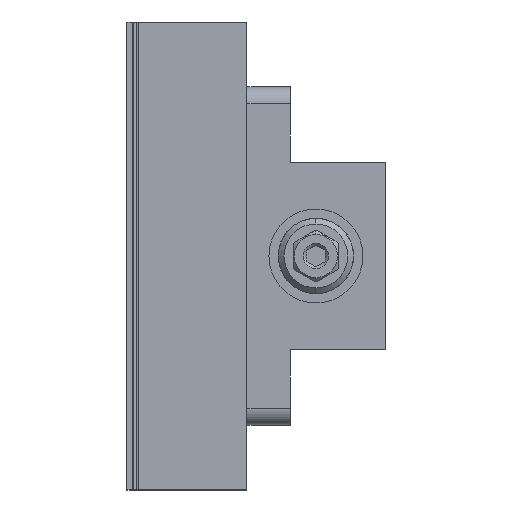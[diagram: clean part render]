
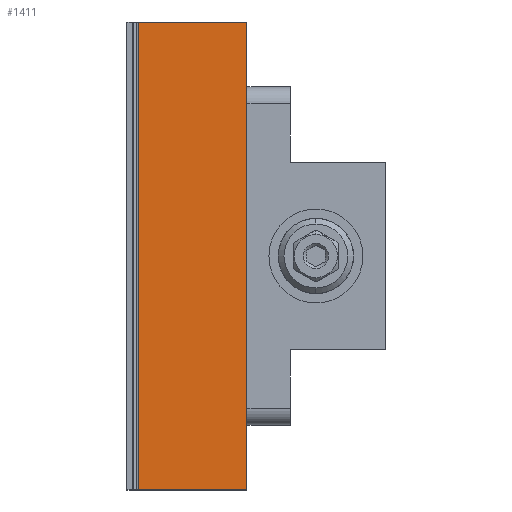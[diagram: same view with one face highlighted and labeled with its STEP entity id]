
A CAD part, left-side view. The second image highlights one B-rep face of the part: STEP entity #1411.
In plain terms, the highlighted planar face has unit normal (-1, 0, 0).
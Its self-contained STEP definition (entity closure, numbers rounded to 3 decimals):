
#69 = VERTEX_POINT ( 'NONE', #1350 ) ;
#261 = VERTEX_POINT ( 'NONE', #5003 ) ;
#264 = CARTESIAN_POINT ( 'NONE',  ( -16.5, 18.35, 62.3 ) ) ;
#417 = DIRECTION ( 'NONE',  ( 0., 0., -1. ) ) ;
#528 = AXIS2_PLACEMENT_3D ( 'NONE', #5467, #5005, #417 ) ;
#602 = EDGE_LOOP ( 'NONE', ( #2242, #1452, #2799, #4934 ) ) ;
#608 = VERTEX_POINT ( 'NONE', #776 ) ;
#660 = CARTESIAN_POINT ( 'NONE',  ( -16.5, 50.35, -62.3 ) ) ;
#684 = LINE ( 'NONE', #264, #2898 ) ;
#776 = CARTESIAN_POINT ( 'NONE',  ( -16.5, 18.35, -62.3 ) ) ;
#1253 = CARTESIAN_POINT ( 'NONE',  ( -16.5, 47.35, -62.3 ) ) ;
#1350 = CARTESIAN_POINT ( 'NONE',  ( -16.5, 47.35, -62.3 ) ) ;
#1411 = ADVANCED_FACE ( 'NONE', ( #5297 ), #2735, .F. ) ;
#1452 = ORIENTED_EDGE ( 'NONE', *, *, #4413, .F. ) ;
#1640 = LINE ( 'NONE', #1253, #3644 ) ;
#1762 = DIRECTION ( 'NONE',  ( 0., 0., 1. ) ) ;
#2242 = ORIENTED_EDGE ( 'NONE', *, *, #2547, .T. ) ;
#2378 = VECTOR ( 'NONE', #1762, 1000. ) ;
#2423 = VERTEX_POINT ( 'NONE', #3285 ) ;
#2547 = EDGE_CURVE ( 'NONE', #261, #2423, #684, .T. ) ;
#2645 = EDGE_CURVE ( 'NONE', #69, #608, #4450, .T. ) ;
#2735 = PLANE ( 'NONE',  #528 ) ;
#2799 = ORIENTED_EDGE ( 'NONE', *, *, #2645, .T. ) ;
#2898 = VECTOR ( 'NONE', #4939, 1000. ) ;
#3285 = CARTESIAN_POINT ( 'NONE',  ( -16.5, 47.35, 62.3 ) ) ;
#3604 = DIRECTION ( 'NONE',  ( 0., -1., 0. ) ) ;
#3644 = VECTOR ( 'NONE', #4665, 1000. ) ;
#3689 = EDGE_CURVE ( 'NONE', #608, #261, #5163, .T. ) ;
#3917 = CARTESIAN_POINT ( 'NONE',  ( -16.5, 18.35, 45. ) ) ;
#4413 = EDGE_CURVE ( 'NONE', #69, #2423, #1640, .T. ) ;
#4450 = LINE ( 'NONE', #660, #5506 ) ;
#4665 = DIRECTION ( 'NONE',  ( 0., 0., 1. ) ) ;
#4934 = ORIENTED_EDGE ( 'NONE', *, *, #3689, .T. ) ;
#4939 = DIRECTION ( 'NONE',  ( 0., 1., 0. ) ) ;
#5003 = CARTESIAN_POINT ( 'NONE',  ( -16.5, 18.35, 62.3 ) ) ;
#5005 = DIRECTION ( 'NONE',  ( 1., 0., 0. ) ) ;
#5163 = LINE ( 'NONE', #3917, #2378 ) ;
#5297 = FACE_OUTER_BOUND ( 'NONE', #602, .T. ) ;
#5467 = CARTESIAN_POINT ( 'NONE',  ( -16.5, 6.85, 25. ) ) ;
#5506 = VECTOR ( 'NONE', #3604, 1000. ) ;
